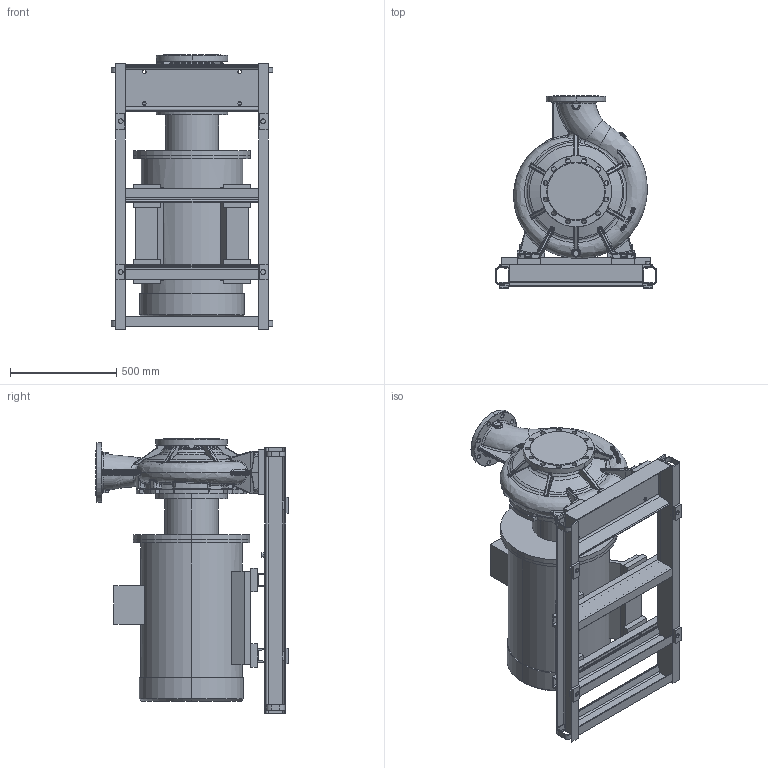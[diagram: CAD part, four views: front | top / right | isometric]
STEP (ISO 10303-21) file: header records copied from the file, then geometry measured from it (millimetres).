
FILE_DESCRIPTION (( 'STEP AP203' ), '1' );
FILE_NAME ('KRM 200-150-400-4-75.STEP', '2026-05-06T06:57:03', ( '' ), ( '' ), 'SwSTEP 2.0', 'SolidWorks 2016', '' );
FILE_SCHEMA (( 'CONFIG_CONTROL_DESIGN' ));
Length unit declared in the file: millimetre
Products named in the file (1): KRM 200-150-400-4-75
Bounding box: 759.61 x 905 x 1293.3 mm (x, y, z)
Volume: 231547999.7 mm3; surface area: 7539720.3 mm2
Topology: 31 solids, 31 shells, 1717 faces, 4300 edges, 2613 vertices
Faces by surface type: bspline 607, plane 476, cylinder 399, torus 108, cone 101, sphere 26
Entity records: 111495 total; most frequent: CARTESIAN_POINT 75356, ORIENTED_EDGE 8492, DIRECTION 6218, EDGE_CURVE 4246, VERTEX_POINT 2613, AXIS2_PLACEMENT_3D 2422, EDGE_LOOP 1845, ADVANCED_FACE 1717
